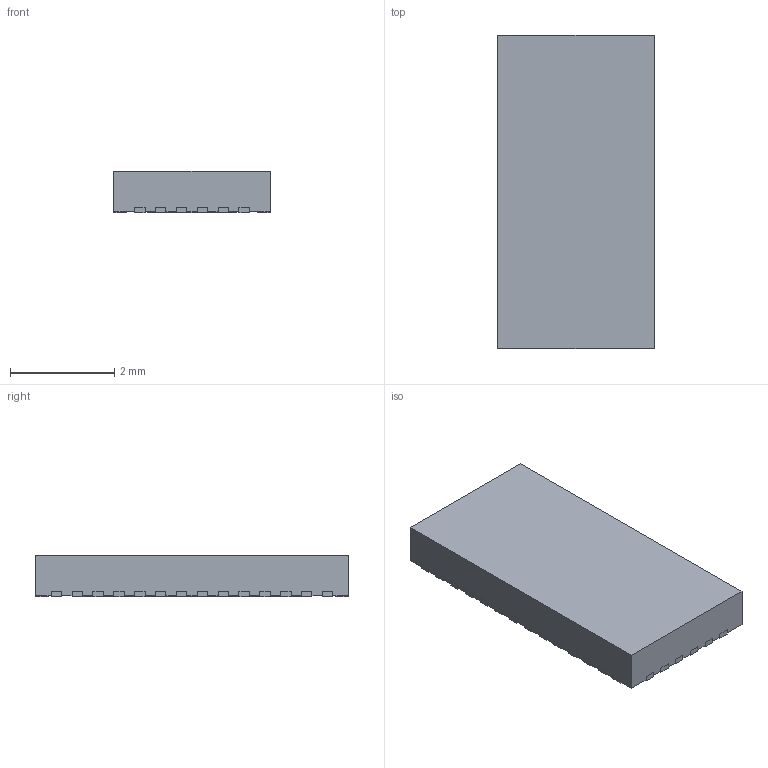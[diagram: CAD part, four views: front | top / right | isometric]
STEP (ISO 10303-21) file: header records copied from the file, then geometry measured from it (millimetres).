
FILE_DESCRIPTION((''),'2;1');
FILE_NAME('RET0040A_ASM','2022-11-16T08:25:46',('a0412086'),(''),'CREO PARAMETRIC BY PTC INC, 2018500','CREO PARAMETRIC BY PTC INC, 2018500','');
FILE_SCHEMA(('CONFIG_CONTROL_DESIGN','SHAPE_APPEARANCE_LAYERS_GROUPS'));
Length unit declared in the file: millimetre
Products named in the file (4): RET0040A_FRAME; RET0040A_BODY; RET0040A_PIN1_AREA; RET0040A_ASM
Assembly tree (3 placements, depth 2):
  RET0040A_ASM
    RET0040A_FRAME
    RET0040A_BODY
    RET0040A_PIN1_AREA
Bounding box: 3 x 6 x 0.8 mm (x, y, z)
Volume: 14.2 mm3; surface area: 75.5 mm2
Topology: 42 solids, 42 shells, 579 faces, 1482 edges, 988 vertices
Faces by surface type: plane 419, cylinder 160
Entity records: 22562 total; most frequent: CARTESIAN_POINT 3056, DIRECTION 2974, ORIENTED_EDGE 2964, PRESENTATION_STYLE_ASSIGNMENT 1564, STYLED_ITEM 1524, CURVE_STYLE 1482, EDGE_CURVE 1482, VECTOR 1162
